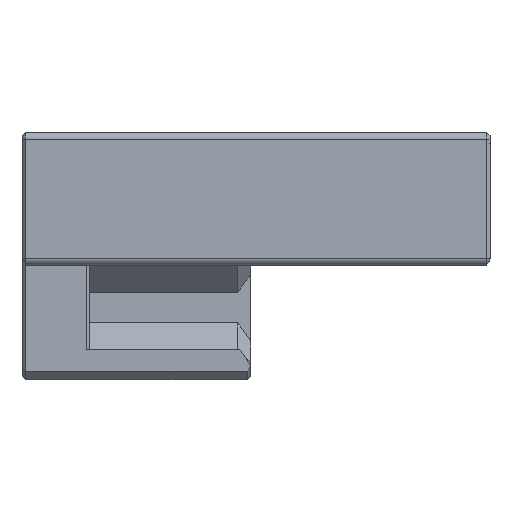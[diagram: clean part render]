
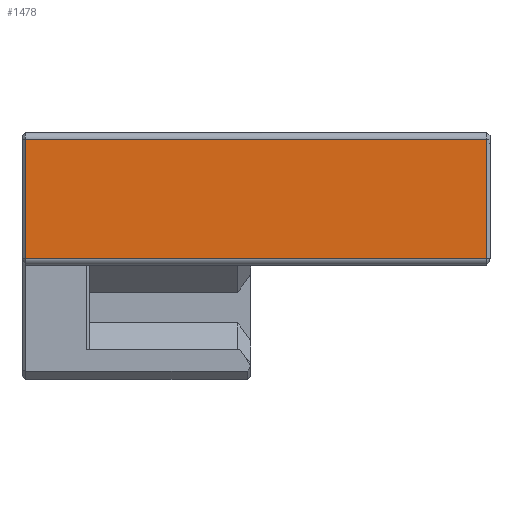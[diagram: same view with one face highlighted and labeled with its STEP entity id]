
A CAD part, top view. The second image highlights one B-rep face of the part: STEP entity #1478.
In plain terms, the highlighted planar face has unit normal (0, 0, 1).
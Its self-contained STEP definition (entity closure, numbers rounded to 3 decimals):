
#200=FACE_OUTER_BOUND('',#296,.T.);
#296=EDGE_LOOP('',(#1312,#1313,#1314,#1315));
#378=LINE('',#2459,#525);
#388=LINE('',#2556,#535);
#389=LINE('',#2559,#536);
#447=LINE('',#2701,#594);
#525=VECTOR('',#1793,10.);
#535=VECTOR('',#1817,10.);
#536=VECTOR('',#1820,10.);
#594=VECTOR('',#1986,10.);
#672=VERTEX_POINT('',#2396);
#681=VERTEX_POINT('',#2447);
#682=VERTEX_POINT('',#2458);
#689=VERTEX_POINT('',#2558);
#834=EDGE_CURVE('',#681,#682,#378,.T.);
#851=EDGE_CURVE('',#682,#672,#388,.T.);
#852=EDGE_CURVE('',#672,#689,#389,.T.);
#923=EDGE_CURVE('',#689,#681,#447,.T.);
#1312=ORIENTED_EDGE('',*,*,#834,.F.);
#1313=ORIENTED_EDGE('',*,*,#923,.F.);
#1314=ORIENTED_EDGE('',*,*,#852,.F.);
#1315=ORIENTED_EDGE('',*,*,#851,.F.);
#1392=PLANE('',#1610);
#1478=ADVANCED_FACE('',(#200),#1392,.T.);
#1610=AXIS2_PLACEMENT_3D('',#2700,#1984,#1985);
#1793=DIRECTION('',(-1.,0.,0.));
#1817=DIRECTION('',(0.,1.,0.));
#1820=DIRECTION('',(1.,0.,0.));
#1984=DIRECTION('center_axis',(0.,0.,
1.));
#1985=DIRECTION('ref_axis',(0.,-1.,0.));
#1986=DIRECTION('',(0.,-1.,0.));
#2396=CARTESIAN_POINT('',(-96.848,62.2,224.45));
#2447=CARTESIAN_POINT('',(-42.398,48.15,224.45));
#2458=CARTESIAN_POINT('',(-96.848,48.15,224.45));
#2459=CARTESIAN_POINT('',(-91.998,48.15,224.45));
#2556=CARTESIAN_POINT('',(-96.848,56.125,224.45));
#2558=CARTESIAN_POINT('',(-42.398,62.2,224.45));
#2559=CARTESIAN_POINT('',(-91.998,62.2,224.45));
#2700=CARTESIAN_POINT('Origin',(-91.998,63.,224.45));
#2701=CARTESIAN_POINT('',(-42.398,59.25,224.45));
